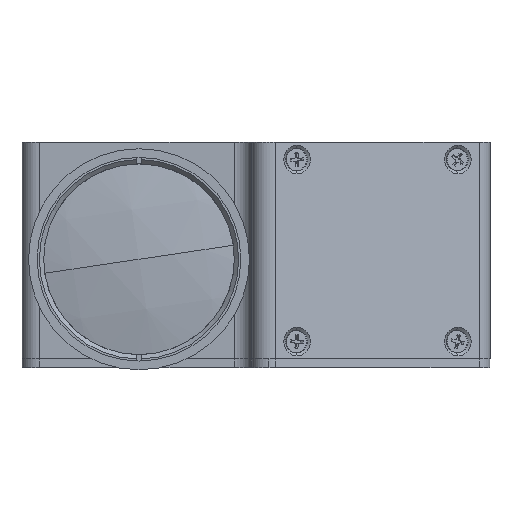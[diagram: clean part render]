
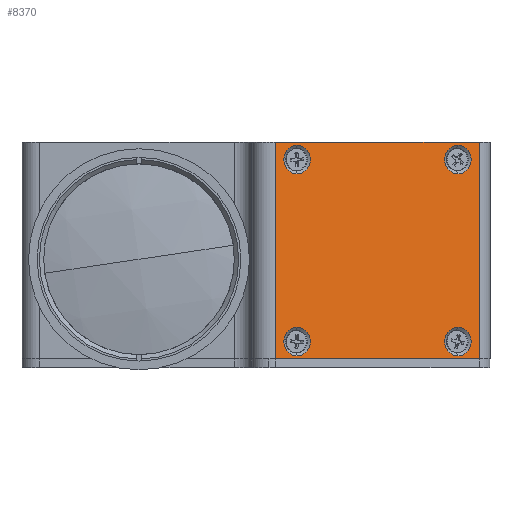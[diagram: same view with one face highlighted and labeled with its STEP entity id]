
A CAD part, left-side view. The second image highlights one B-rep face of the part: STEP entity #8370.
In plain terms, the highlighted planar face has unit normal (-0.927, -0.375, 0).
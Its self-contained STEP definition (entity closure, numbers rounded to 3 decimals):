
#21 = DIRECTION ( 'NONE',  ( -0.927, -0.375, 0. ) ) ;
#112 = ORIENTED_EDGE ( 'NONE', *, *, #1076, .F. ) ;
#149 = EDGE_CURVE ( 'NONE', #12190, #5694, #10109, .T. ) ;
#175 = PLANE ( 'NONE',  #9803 ) ;
#232 = CARTESIAN_POINT ( 'NONE',  ( 67.03, -73.583, -22.3 ) ) ;
#284 = EDGE_CURVE ( 'NONE', #9794, #10546, #11753, .T. ) ;
#613 = ORIENTED_EDGE ( 'NONE', *, *, #284, .T. ) ;
#715 = EDGE_CURVE ( 'NONE', #8337, #12794, #10664, .T. ) ;
#732 = EDGE_CURVE ( 'NONE', #9794, #12794, #12971, .T. ) ;
#740 = VERTEX_POINT ( 'NONE', #232 ) ;
#824 = EDGE_CURVE ( 'NONE', #8337, #10546, #1841, .T. ) ;
#907 = EDGE_CURVE ( 'NONE', #8097, #2951, #3111, .T. ) ;
#963 = EDGE_CURVE ( 'NONE', #5694, #12190, #5406, .T. ) ;
#1014 = CARTESIAN_POINT ( 'NONE',  ( 50.035, -31.516, 27. ) ) ;
#1029 = EDGE_CURVE ( 'NONE', #2951, #8097, #1459, .T. ) ;
#1076 = EDGE_CURVE ( 'NONE', #1253, #740, #6095, .T. ) ;
#1106 = EDGE_CURVE ( 'NONE', #6707, #4538, #11386, .T. ) ;
#1172 = DIRECTION ( 'NONE',  ( 0., 0., 1. ) ) ;
#1239 = CARTESIAN_POINT ( 'NONE',  ( 67.03, -73.583, -19. ) ) ;
#1253 = VERTEX_POINT ( 'NONE', #13267 ) ;
#1459 = CIRCLE ( 'NONE', #8544, 3.3 ) ;
#1585 = ORIENTED_EDGE ( 'NONE', *, *, #13564, .F. ) ;
#1648 = DIRECTION ( 'NONE',  ( 0., 0., 1. ) ) ;
#1687 = DIRECTION ( 'NONE',  ( -0.927, -0.375, 0. ) ) ;
#1705 = CARTESIAN_POINT ( 'NONE',  ( 52.046, -36.495, 23. ) ) ;
#1841 = LINE ( 'NONE', #11538, #13859 ) ;
#1988 = CIRCLE ( 'NONE', #6259, 3.3 ) ;
#2103 = ORIENTED_EDGE ( 'NONE', *, *, #907, .F. ) ;
#2468 = DIRECTION ( 'NONE',  ( 0., 0., 1. ) ) ;
#2615 = CARTESIAN_POINT ( 'NONE',  ( 52.046, -36.495, -19. ) ) ;
#2623 = DIRECTION ( 'NONE',  ( 0., 0., 1. ) ) ;
#2668 = DIRECTION ( 'NONE',  ( 0.375, -0.927, 0. ) ) ;
#2863 = EDGE_LOOP ( 'NONE', ( #112, #9971 ) ) ;
#2951 = VERTEX_POINT ( 'NONE', #9766 ) ;
#3111 = CIRCLE ( 'NONE', #9472, 3.3 ) ;
#3214 = EDGE_LOOP ( 'NONE', ( #14801, #1585 ) ) ;
#3391 = ORIENTED_EDGE ( 'NONE', *, *, #715, .T. ) ;
#3755 = DIRECTION ( 'NONE',  ( 0., 0., 1. ) ) ;
#3756 = DIRECTION ( 'NONE',  ( -0.927, -0.375, 0. ) ) ;
#4280 = CARTESIAN_POINT ( 'NONE',  ( 52.046, -36.495, 26.3 ) ) ;
#4283 = EDGE_LOOP ( 'NONE', ( #8754, #2103 ) ) ;
#4538 = VERTEX_POINT ( 'NONE', #8659 ) ;
#4812 = DIRECTION ( 'NONE',  ( -0.375, 0.927, 0. ) ) ;
#5056 = DIRECTION ( 'NONE',  ( -0.927, -0.375, 0. ) ) ;
#5287 = DIRECTION ( 'NONE',  ( 0., 0., -1. ) ) ;
#5406 = CIRCLE ( 'NONE', #9089, 3.3 ) ;
#5607 = ORIENTED_EDGE ( 'NONE', *, *, #963, .F. ) ;
#5694 = VERTEX_POINT ( 'NONE', #4280 ) ;
#5880 = DIRECTION ( 'NONE',  ( -0.927, -0.375, 0. ) ) ;
#6095 = CIRCLE ( 'NONE', #8157, 3.3 ) ;
#6118 = DIRECTION ( 'NONE',  ( -0.927, -0.375, 0. ) ) ;
#6259 = AXIS2_PLACEMENT_3D ( 'NONE', #11791, #5056, #12924 ) ;
#6707 = VERTEX_POINT ( 'NONE', #8578 ) ;
#6920 = CARTESIAN_POINT ( 'NONE',  ( 52.046, -36.495, 23. ) ) ;
#7594 = CARTESIAN_POINT ( 'NONE',  ( 50.035, -31.516, -23. ) ) ;
#7793 = AXIS2_PLACEMENT_3D ( 'NONE', #12650, #5880, #13794 ) ;
#7996 = DIRECTION ( 'NONE',  ( -0.927, -0.375, 0. ) ) ;
#8055 = DIRECTION ( 'NONE',  ( 0., 0., 1. ) ) ;
#8097 = VERTEX_POINT ( 'NONE', #14511 ) ;
#8157 = AXIS2_PLACEMENT_3D ( 'NONE', #1239, #9155, #2468 ) ;
#8208 = CARTESIAN_POINT ( 'NONE',  ( 69.017, -78.498, 2. ) ) ;
#8337 = VERTEX_POINT ( 'NONE', #13802 ) ;
#8370 = ADVANCED_FACE ( 'NONE', ( #11476, #14498, #14139, #12542, #11130 ), #175, .T. ) ;
#8381 = VECTOR ( 'NONE', #5287, 1000. ) ;
#8544 = AXIS2_PLACEMENT_3D ( 'NONE', #2615, #10472, #3755 ) ;
#8578 = CARTESIAN_POINT ( 'NONE',  ( 67.03, -73.583, 26.3 ) ) ;
#8659 = CARTESIAN_POINT ( 'NONE',  ( 67.03, -73.583, 19.7 ) ) ;
#8718 = AXIS2_PLACEMENT_3D ( 'NONE', #14761, #7996, #1172 ) ;
#8754 = ORIENTED_EDGE ( 'NONE', *, *, #1029, .F. ) ;
#9089 = AXIS2_PLACEMENT_3D ( 'NONE', #6920, #21, #8055 ) ;
#9155 = DIRECTION ( 'NONE',  ( -0.927, -0.375, 0. ) ) ;
#9243 = ORIENTED_EDGE ( 'NONE', *, *, #824, .F. ) ;
#9365 = CARTESIAN_POINT ( 'NONE',  ( 71.526, -84.709, 27. ) ) ;
#9472 = AXIS2_PLACEMENT_3D ( 'NONE', #12876, #6118, #14021 ) ;
#9542 = CARTESIAN_POINT ( 'NONE',  ( 52.046, -36.495, 19.7 ) ) ;
#9766 = CARTESIAN_POINT ( 'NONE',  ( 52.046, -36.495, -15.7 ) ) ;
#9794 = VERTEX_POINT ( 'NONE', #1014 ) ;
#9803 = AXIS2_PLACEMENT_3D ( 'NONE', #10475, #3756, #11613 ) ;
#9971 = ORIENTED_EDGE ( 'NONE', *, *, #13766, .F. ) ;
#9979 = VECTOR ( 'NONE', #2668, 1000. ) ;
#10109 = CIRCLE ( 'NONE', #13593, 3.3 ) ;
#10433 = CIRCLE ( 'NONE', #8718, 3.3 ) ;
#10472 = DIRECTION ( 'NONE',  ( -0.927, -0.375, 0. ) ) ;
#10475 = CARTESIAN_POINT ( 'NONE',  ( 59.669, -55.363, 2. ) ) ;
#10546 = VERTEX_POINT ( 'NONE', #7594 ) ;
#10664 = LINE ( 'NONE', #8208, #13694 ) ;
#11130 = FACE_OUTER_BOUND ( 'NONE', #12907, .T. ) ;
#11386 = CIRCLE ( 'NONE', #7793, 3.3 ) ;
#11476 = FACE_BOUND ( 'NONE', #3214, .T. ) ;
#11538 = CARTESIAN_POINT ( 'NONE',  ( 71.526, -84.709, -23. ) ) ;
#11613 = DIRECTION ( 'NONE',  ( 0., 0., 1. ) ) ;
#11639 = ORIENTED_EDGE ( 'NONE', *, *, #732, .F. ) ;
#11753 = LINE ( 'NONE', #13156, #8381 ) ;
#11791 = CARTESIAN_POINT ( 'NONE',  ( 67.03, -73.583, -19. ) ) ;
#12190 = VERTEX_POINT ( 'NONE', #9542 ) ;
#12542 = FACE_BOUND ( 'NONE', #12548, .T. ) ;
#12548 = EDGE_LOOP ( 'NONE', ( #5607, #13316 ) ) ;
#12650 = CARTESIAN_POINT ( 'NONE',  ( 67.03, -73.583, 23. ) ) ;
#12794 = VERTEX_POINT ( 'NONE', #14307 ) ;
#12876 = CARTESIAN_POINT ( 'NONE',  ( 52.046, -36.495, -19. ) ) ;
#12907 = EDGE_LOOP ( 'NONE', ( #9243, #3391, #11639, #613 ) ) ;
#12924 = DIRECTION ( 'NONE',  ( 0., 0., 1. ) ) ;
#12971 = LINE ( 'NONE', #9365, #9979 ) ;
#13156 = CARTESIAN_POINT ( 'NONE',  ( 50.035, -31.516, 2. ) ) ;
#13267 = CARTESIAN_POINT ( 'NONE',  ( 67.03, -73.583, -15.7 ) ) ;
#13316 = ORIENTED_EDGE ( 'NONE', *, *, #149, .F. ) ;
#13564 = EDGE_CURVE ( 'NONE', #4538, #6707, #10433, .T. ) ;
#13593 = AXIS2_PLACEMENT_3D ( 'NONE', #1705, #1687, #1648 ) ;
#13694 = VECTOR ( 'NONE', #2623, 1000. ) ;
#13766 = EDGE_CURVE ( 'NONE', #740, #1253, #1988, .T. ) ;
#13794 = DIRECTION ( 'NONE',  ( 0., 0., 1. ) ) ;
#13802 = CARTESIAN_POINT ( 'NONE',  ( 69.017, -78.498, -23. ) ) ;
#13859 = VECTOR ( 'NONE', #4812, 1000. ) ;
#14021 = DIRECTION ( 'NONE',  ( 0., 0., 1. ) ) ;
#14139 = FACE_BOUND ( 'NONE', #4283, .T. ) ;
#14307 = CARTESIAN_POINT ( 'NONE',  ( 69.017, -78.498, 27. ) ) ;
#14498 = FACE_BOUND ( 'NONE', #2863, .T. ) ;
#14511 = CARTESIAN_POINT ( 'NONE',  ( 52.046, -36.495, -22.3 ) ) ;
#14761 = CARTESIAN_POINT ( 'NONE',  ( 67.03, -73.583, 23. ) ) ;
#14801 = ORIENTED_EDGE ( 'NONE', *, *, #1106, .F. ) ;
